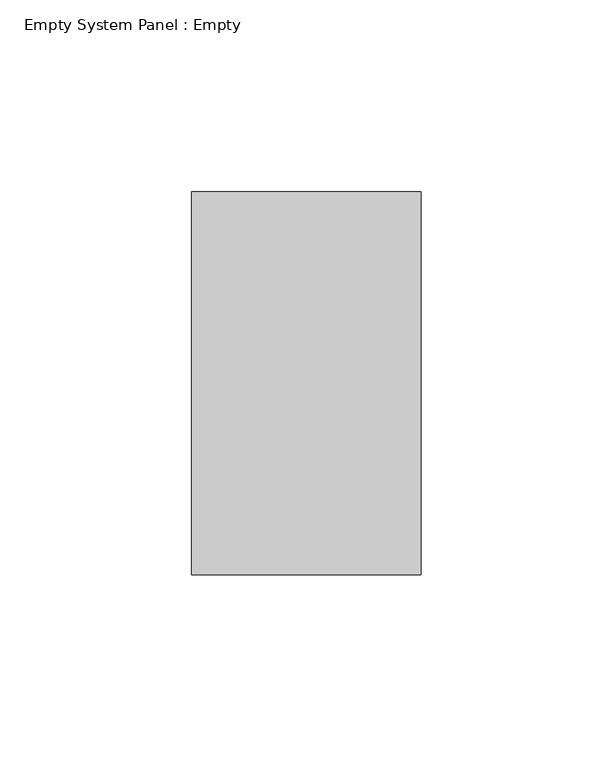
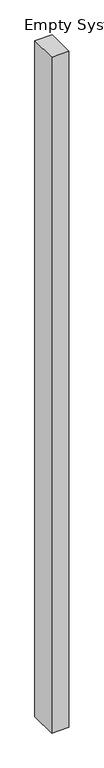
"""IFC4 building model written with IfcOpenShell, lengths in millimetres: plate geometry, Empty System Panel : Empty."""

from ifc_helpers import new_model, si_unit, origin, origin_with_axes, place, context, project, spatial, polyline, outline, extrude, source, transform, mapped, element, save


def empty_system_panel_empty_a3f81492(model_context):
    return source(origin(), model_context, "Body", "SweptSolid", [
        extrude(outline(polyline([(30.0, 50.0), (-30.0, 50.0), (-30.0, 150.0), (30.0, 150.0), (30.0, 50.0)])), origin_with_axes(), (0.0, 0.0, 1.0), 2475.0),
    ])


if __name__ == "__main__":
    model = new_model("IFC4")
    model_context = context("Model", 3, world=origin())
    ifc_project = project(units=[si_unit("LENGTHUNIT", "METRE", prefix="MILLI")], contexts=[model_context])
    site = spatial("IfcSite", under=ifc_project)
    building = spatial("IfcBuilding", under=site)
    placement = place(None, origin())
    empty_system_panel_empty_shape = empty_system_panel_empty_a3f81492(model_context)
    element("IfcPlate", 1, ObjectType="Empty System Panel : Empty", at=placement, inside=building, context=model_context, shape_type="MappedRepresentation", body=[
        mapped(empty_system_panel_empty_shape, transform((0.0, 0.0, 0.0), x_axis=(1.0, 0.0, 0.0), y_axis=(0.0, 1.0, 0.0), z_axis=(0.0, 0.0, 1.0))),
    ])
    save(model, "model.ifc")
